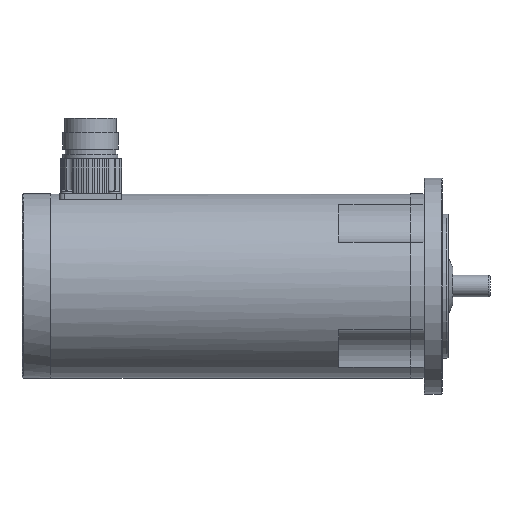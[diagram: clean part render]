
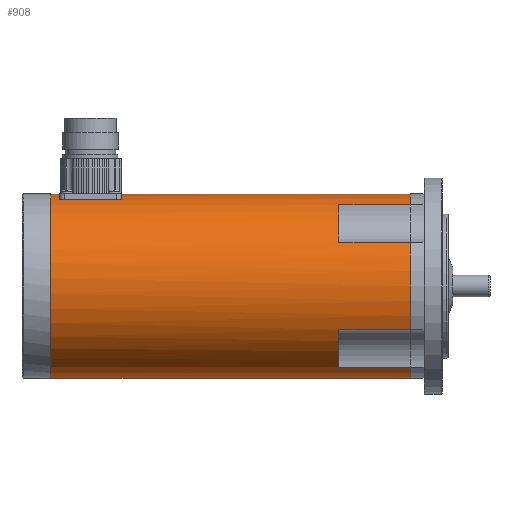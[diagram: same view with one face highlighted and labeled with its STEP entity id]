
A CAD part, left-side view. The second image highlights one B-rep face of the part: STEP entity #908.
In plain terms, the highlighted cylindrical face has radius 38.5 mm (diameter 77 mm), a full revolution.
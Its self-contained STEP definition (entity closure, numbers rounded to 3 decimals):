
#458=CYLINDRICAL_SURFACE('',#5069,38.5);
#606=LINE('',#7525,#756);
#607=LINE('',#7529,#757);
#608=LINE('',#7530,#758);
#609=LINE('',#7532,#759);
#610=LINE('',#7536,#760);
#611=LINE('',#7537,#761);
#612=LINE('',#7541,#762);
#613=LINE('',#7542,#763);
#614=LINE('',#7546,#764);
#615=LINE('',#7547,#765);
#756=VECTOR('',#5845,1.);
#757=VECTOR('',#5848,1.);
#758=VECTOR('',#5849,1.);
#759=VECTOR('',#5850,1.);
#760=VECTOR('',#5853,1.);
#761=VECTOR('',#5854,1.);
#762=VECTOR('',#5857,1.);
#763=VECTOR('',#5858,1.);
#764=VECTOR('',#5861,1.);
#765=VECTOR('',#5862,1.);
#908=ADVANCED_FACE('',(#1588,#1589,#1590),#458,.T.);
#1588=FACE_BOUND('',#1936,.T.);
#1589=FACE_BOUND('',#1937,.T.);
#1590=FACE_BOUND('',#1938,.T.);
#1936=EDGE_LOOP('',(#2524,#2525,#2526,#2527));
#1937=EDGE_LOOP('',(#2528,#2529,#2530,#2531,#2532,#2533,#2534,#2535,#2536,
#2537,#2538,#2539,#2540,#2541,#2542,#2543));
#1938=EDGE_LOOP('',(#2544));
#2524=ORIENTED_EDGE('',*,*,#4092,.F.);
#2525=ORIENTED_EDGE('',*,*,#4093,.F.);
#2526=ORIENTED_EDGE('',*,*,#4094,.F.);
#2527=ORIENTED_EDGE('',*,*,#4095,.F.);
#2528=ORIENTED_EDGE('',*,*,#4096,.F.);
#2529=ORIENTED_EDGE('',*,*,#4090,.T.);
#2530=ORIENTED_EDGE('',*,*,#4097,.F.);
#2531=ORIENTED_EDGE('',*,*,#4098,.F.);
#2532=ORIENTED_EDGE('',*,*,#4099,.F.);
#2533=ORIENTED_EDGE('',*,*,#4088,.T.);
#2534=ORIENTED_EDGE('',*,*,#4100,.F.);
#2535=ORIENTED_EDGE('',*,*,#4101,.F.);
#2536=ORIENTED_EDGE('',*,*,#4102,.F.);
#2537=ORIENTED_EDGE('',*,*,#4086,.T.);
#2538=ORIENTED_EDGE('',*,*,#4103,.F.);
#2539=ORIENTED_EDGE('',*,*,#4104,.F.);
#2540=ORIENTED_EDGE('',*,*,#4105,.F.);
#2541=ORIENTED_EDGE('',*,*,#4084,.T.);
#2542=ORIENTED_EDGE('',*,*,#4106,.F.);
#2543=ORIENTED_EDGE('',*,*,#4107,.F.);
#2544=ORIENTED_EDGE('',*,*,#4082,.T.);
#3638=VERTEX_POINT('',#7501);
#3639=VERTEX_POINT('',#7504);
#3640=VERTEX_POINT('',#7505);
#3641=VERTEX_POINT('',#7507);
#3642=VERTEX_POINT('',#7509);
#3643=VERTEX_POINT('',#7511);
#3644=VERTEX_POINT('',#7513);
#3645=VERTEX_POINT('',#7515);
#3646=VERTEX_POINT('',#7517);
#3648=VERTEX_POINT('',#7523);
#3649=VERTEX_POINT('',#7524);
#3650=VERTEX_POINT('',#7526);
#3651=VERTEX_POINT('',#7528);
#3652=VERTEX_POINT('',#7531);
#3653=VERTEX_POINT('',#7533);
#3654=VERTEX_POINT('',#7535);
#3655=VERTEX_POINT('',#7538);
#3656=VERTEX_POINT('',#7540);
#3657=VERTEX_POINT('',#7543);
#3658=VERTEX_POINT('',#7545);
#3659=VERTEX_POINT('',#7548);
#4082=EDGE_CURVE('',#3638,#3638,#4644,.T.);
#4084=EDGE_CURVE('',#3641,#3640,#4646,.T.);
#4086=EDGE_CURVE('',#3643,#3642,#4648,.T.);
#4088=EDGE_CURVE('',#3645,#3644,#4650,.T.);
#4090=EDGE_CURVE('',#3639,#3646,#4652,.T.);
#4092=EDGE_CURVE('',#3648,#3649,#4654,.T.);
#4093=EDGE_CURVE('',#3650,#3648,#606,.T.);
#4094=EDGE_CURVE('',#3651,#3650,#4655,.T.);
#4095=EDGE_CURVE('',#3649,#3651,#607,.T.);
#4096=EDGE_CURVE('',#3639,#3652,#608,.T.);
#4097=EDGE_CURVE('',#3653,#3646,#609,.T.);
#4098=EDGE_CURVE('',#3654,#3653,#4656,.T.);
#4099=EDGE_CURVE('',#3645,#3654,#610,.T.);
#4100=EDGE_CURVE('',#3655,#3644,#611,.T.);
#4101=EDGE_CURVE('',#3656,#3655,#4657,.T.);
#4102=EDGE_CURVE('',#3643,#3656,#612,.T.);
#4103=EDGE_CURVE('',#3657,#3642,#613,.T.);
#4104=EDGE_CURVE('',#3658,#3657,#4658,.T.);
#4105=EDGE_CURVE('',#3641,#3658,#614,.T.);
#4106=EDGE_CURVE('',#3659,#3640,#615,.T.);
#4107=EDGE_CURVE('',#3652,#3659,#4659,.T.);
#4644=CIRCLE('',#5051,38.5);
#4646=CIRCLE('',#5054,38.5);
#4648=CIRCLE('',#5056,38.5);
#4650=CIRCLE('',#5058,38.5);
#4652=CIRCLE('',#5060,38.5);
#4654=CIRCLE('',#5063,38.5);
#4655=CIRCLE('',#5064,38.5);
#4656=CIRCLE('',#5065,38.5);
#4657=CIRCLE('',#5066,38.5);
#4658=CIRCLE('',#5067,38.5);
#4659=CIRCLE('',#5068,38.5);
#5051=AXIS2_PLACEMENT_3D('',#7500,#5819,#5820);
#5054=AXIS2_PLACEMENT_3D('',#7506,#5825,#5826);
#5056=AXIS2_PLACEMENT_3D('',#7510,#5829,#5830);
#5058=AXIS2_PLACEMENT_3D('',#7514,#5833,#5834);
#5060=AXIS2_PLACEMENT_3D('',#7518,#5837,#5838);
#5063=AXIS2_PLACEMENT_3D('',#7522,#5843,#5844);
#5064=AXIS2_PLACEMENT_3D('',#7527,#5846,#5847);
#5065=AXIS2_PLACEMENT_3D('',#7534,#5851,#5852);
#5066=AXIS2_PLACEMENT_3D('',#7539,#5855,#5856);
#5067=AXIS2_PLACEMENT_3D('',#7544,#5859,#5860);
#5068=AXIS2_PLACEMENT_3D('',#7549,#5863,#5864);
#5069=AXIS2_PLACEMENT_3D('',#7550,#5865,#5866);
#5819=DIRECTION('',(0.,-1.,0.));
#5820=DIRECTION('',(0.,0.,-1.));
#5825=DIRECTION('',(0.,1.,0.));
#5826=DIRECTION('',(0.,0.,1.));
#5829=DIRECTION('',(0.,1.,0.));
#5830=DIRECTION('',(0.,0.,1.));
#5833=DIRECTION('',(0.,1.,0.));
#5834=DIRECTION('',(0.,0.,1.));
#5837=DIRECTION('',(0.,1.,0.));
#5838=DIRECTION('',(0.,0.,1.));
#5843=DIRECTION('',(0.,1.,0.));
#5844=DIRECTION('',(0.,0.,-1.));
#5845=DIRECTION('',(0.,-1.,0.));
#5846=DIRECTION('',(0.,-1.,0.));
#5847=DIRECTION('',(0.,0.,1.));
#5848=DIRECTION('',(0.,1.,0.));
#5849=DIRECTION('',(0.,1.,0.));
#5850=DIRECTION('',(0.,-1.,0.));
#5851=DIRECTION('',(0.,-1.,0.));
#5852=DIRECTION('',(0.,0.,1.));
#5853=DIRECTION('',(0.,1.,0.));
#5854=DIRECTION('',(0.,-1.,0.));
#5855=DIRECTION('',(0.,-1.,0.));
#5856=DIRECTION('',(0.,0.,1.));
#5857=DIRECTION('',(0.,1.,0.));
#5858=DIRECTION('',(0.,-1.,0.));
#5859=DIRECTION('',(0.,-1.,0.));
#5860=DIRECTION('',(0.,0.,1.));
#5861=DIRECTION('',(0.,1.,0.));
#5862=DIRECTION('',(0.,-1.,0.));
#5863=DIRECTION('',(0.,-1.,0.));
#5864=DIRECTION('',(0.,0.,1.));
#5865=DIRECTION('',(0.,1.,0.));
#5866=DIRECTION('',(0.,0.,1.));
#7500=CARTESIAN_POINT('',(0.,150.,0.));
#7501=CARTESIAN_POINT('',(0.,150.,-38.5));
#7504=CARTESIAN_POINT('',(-18.249,0.,33.9));
#7505=CARTESIAN_POINT('',(-33.9,0.,18.249));
#7506=CARTESIAN_POINT('',(0.,0.,0.));
#7507=CARTESIAN_POINT('',(-33.9,0.,-18.249));
#7509=CARTESIAN_POINT('',(-18.249,0.,-33.9));
#7510=CARTESIAN_POINT('',(0.,0.,0.));
#7511=CARTESIAN_POINT('',(18.249,0.,-33.9));
#7513=CARTESIAN_POINT('',(33.9,0.,-18.249));
#7514=CARTESIAN_POINT('',(0.,0.,0.));
#7515=CARTESIAN_POINT('',(33.9,0.,18.249));
#7517=CARTESIAN_POINT('',(18.249,0.,33.9));
#7518=CARTESIAN_POINT('',(0.,0.,0.));
#7522=CARTESIAN_POINT('',(0.,120.5,0.));
#7523=CARTESIAN_POINT('',(-13.647,120.5,36.));
#7524=CARTESIAN_POINT('',(13.647,120.5,36.));
#7525=CARTESIAN_POINT('',(-13.647,0.,36.));
#7526=CARTESIAN_POINT('',(-13.647,146.5,36.));
#7527=CARTESIAN_POINT('',(0.,146.5,0.));
#7528=CARTESIAN_POINT('',(13.647,146.5,36.));
#7529=CARTESIAN_POINT('',(13.647,0.,36.));
#7530=CARTESIAN_POINT('',(-18.249,15.,33.9));
#7531=CARTESIAN_POINT('',(-18.249,30.,33.9));
#7532=CARTESIAN_POINT('',(18.249,15.,33.9));
#7533=CARTESIAN_POINT('',(18.249,30.,33.9));
#7534=CARTESIAN_POINT('',(0.,30.,0.));
#7535=CARTESIAN_POINT('',(33.9,30.,18.249));
#7536=CARTESIAN_POINT('',(33.9,15.,18.249));
#7537=CARTESIAN_POINT('',(33.9,15.,-18.249));
#7538=CARTESIAN_POINT('',(33.9,30.,-18.249));
#7539=CARTESIAN_POINT('',(0.,30.,0.));
#7540=CARTESIAN_POINT('',(18.249,30.,-33.9));
#7541=CARTESIAN_POINT('',(18.249,15.,-33.9));
#7542=CARTESIAN_POINT('',(-18.249,15.,-33.9));
#7543=CARTESIAN_POINT('',(-18.249,30.,-33.9));
#7544=CARTESIAN_POINT('',(0.,30.,0.));
#7545=CARTESIAN_POINT('',(-33.9,30.,-18.249));
#7546=CARTESIAN_POINT('',(-33.9,15.,-18.249));
#7547=CARTESIAN_POINT('',(-33.9,15.,18.249));
#7548=CARTESIAN_POINT('',(-33.9,30.,18.249));
#7549=CARTESIAN_POINT('',(0.,30.,0.));
#7550=CARTESIAN_POINT('',(0.,0.,0.));
